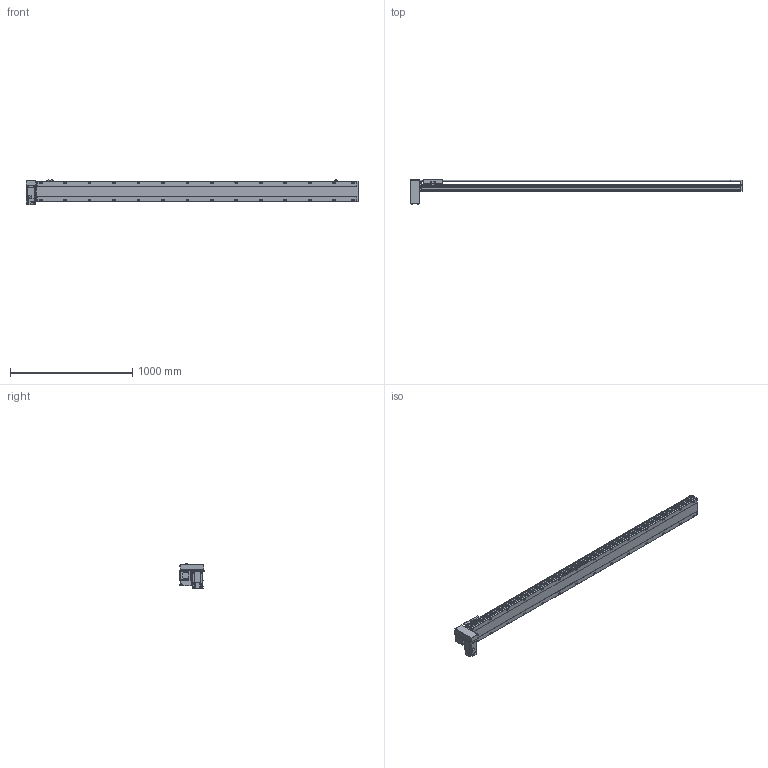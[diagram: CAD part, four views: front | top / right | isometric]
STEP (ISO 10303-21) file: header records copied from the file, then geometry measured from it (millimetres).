
FILE_DESCRIPTION(/* description */ ('STEP AP214'),/* implementation_level */ '2;1');
FILE_NAME(/* name */ 'PBS170-P40-S2350-RD-T75-C1-N(0)',/* time_stamp */ '2022-06-08T07:37:34+02:00',/* author */ ('License CC BY-ND 4.0'),/* organization */ ('CADENAS'),/* preprocessor_version */ 'ST-DEVELOPER v18.102',/* originating_system */ 'PARTsolutions',/* authorisation */ ' ');
FILE_SCHEMA (('AUTOMOTIVE_DESIGN {1 0 10303 214 3 1 1}'));
Length unit declared in the file: millimetre
Products named in the file (7): PBS170-P40-S2350-RD-T75-C1-N(0); PBS170_sensor; PBS170_plant; PBS170_sliser; T75-p1; PBS170T-RD_motors; PBS170-S2350()_body
Assembly tree (8 placements, depth 2):
  PBS170-P40-S2350-RD-T75-C1-N(0)
    PBS170_sensor  x3
    PBS170_plant
    PBS170_sliser
    T75-p1
    PBS170T-RD_motors
    PBS170-S2350()_body
Bounding box: 2713 x 201 x 205.3 mm (x, y, z)
Volume: 20610158.3 mm3; surface area: 2600493.6 mm2
Topology: 8 solids, 8 shells, 1178 faces, 3115 edges, 2030 vertices
Faces by surface type: plane 723, cylinder 387, cone 58, sphere 8, torus 2
Full cylindrical faces by diameter (mm): 3.242 x4, 4 x2, 4.4 x4, 4.5 x6, 4.917 x4, 6 x9, 6.647 x36, 7 x2, 7.5 x4, 8 x8, 8.5 x28, 10 x4, 10.5 x28, 11 x2, 30 x2, 40 x1, 70 x1
Entity records: 33866 total; most frequent: CARTESIAN_POINT 6385, DIRECTION 5720, ORIENTED_EDGE 5388, EDGE_CURVE 2694, AXIS2_PLACEMENT_3D 2017, VERTEX_POINT 1874, LINE 1686, VECTOR 1686
